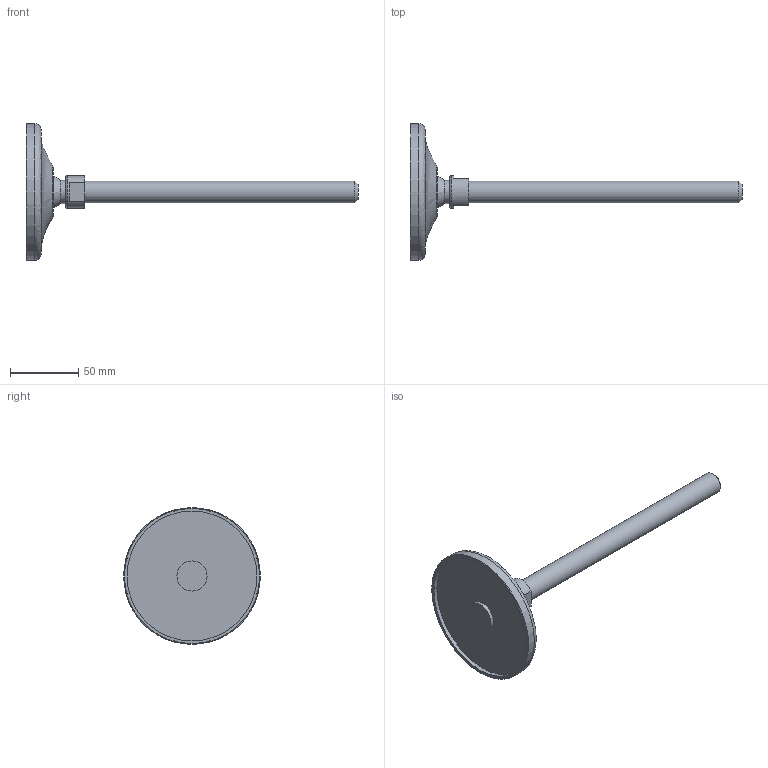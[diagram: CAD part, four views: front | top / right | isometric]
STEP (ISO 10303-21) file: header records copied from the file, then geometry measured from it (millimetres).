
FILE_DESCRIPTION(('STEP AP203'),'2;1');
FILE_NAME('10774.stp','2015-09-18T15:33:29',(''),(''),'2008.1.107','THINKDESIGN','');
FILE_SCHEMA(('CONFIG_CONTROL_DESIGN'));
Length unit declared in the file: millimetre
Bounding box: 243 x 100 x 100 mm (x, y, z)
Volume: 134385.1 mm3; surface area: 33363.9 mm2
Topology: 4 solids, 4 shells, 27 faces, 62 edges, 45 vertices
Faces by surface type: plane 14, bspline 7, cylinder 6
Full cylindrical faces by diameter (mm): 16 x1, 17 x1, 22 x1, 24 x1, 95 x1, 100 x1
Entity records: 1395 total; most frequent: CARTESIAN_POINT 657, DIRECTION 149, ORIENTED_EDGE 124, AXIS2_PLACEMENT_3D 67, EDGE_CURVE 62, CIRCLE 47, VERTEX_POINT 45, EDGE_LOOP 29
